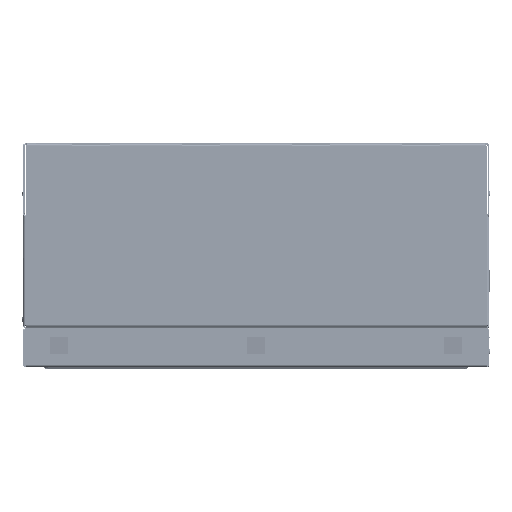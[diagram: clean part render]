
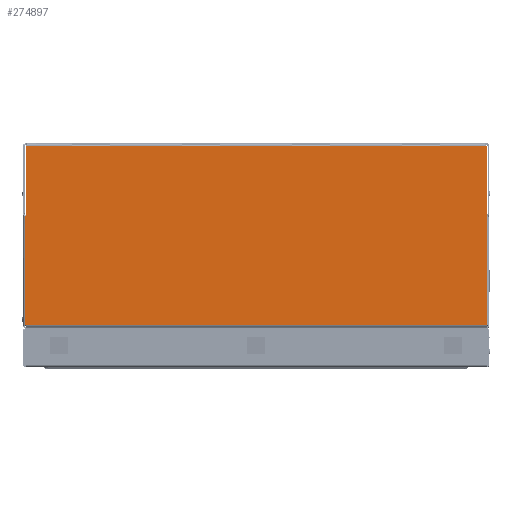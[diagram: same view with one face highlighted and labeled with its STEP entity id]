
A CAD part, top view. The second image highlights one B-rep face of the part: STEP entity #274897.
In plain terms, the highlighted planar face has unit normal (0, 0, 1).
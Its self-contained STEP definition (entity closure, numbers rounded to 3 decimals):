
#256444=DIRECTION('',(-1.,0.,0.));
#256445=VECTOR('',#256444,5.955);
#256446=CARTESIAN_POINT('',(-79.215,27.825,0.25));
#256447=LINE('',#256446,#256445);
#256448=CARTESIAN_POINT('',(-85.17,27.825,0.25));
#256762=DIRECTION('',(-1.,0.,0.));
#256763=VECTOR('',#256762,9.21);
#256764=CARTESIAN_POINT('',(-65.245,27.825,0.25));
#256765=LINE('',#256764,#256763);
#257070=DIRECTION('',(-1.,0.,0.));
#257071=VECTOR('',#257070,9.21);
#257072=CARTESIAN_POINT('',(-51.275,27.825,0.25));
#257073=LINE('',#257072,#257071);
#257378=DIRECTION('',(-1.,0.,0.));
#257379=VECTOR('',#257378,9.21);
#257380=CARTESIAN_POINT('',(-37.305,27.825,0.25));
#257381=LINE('',#257380,#257379);
#257682=DIRECTION('',(-1.,0.,0.));
#257683=VECTOR('',#257682,5.955);
#257684=CARTESIAN_POINT('',(-26.59,27.825,
0.25));
#257685=LINE('',#257684,#257683);
#257700=DIRECTION('',(-0.707,0.707,
0.));
#257701=VECTOR('',#257700,0.028);
#257702=CARTESIAN_POINT('',(-26.57,18.905,0.25));
#257703=LINE('',#257702,#257701);
#257704=DIRECTION('',(-0.707,-0.707,
0.));
#257705=VECTOR('',#257704,0.028);
#257706=CARTESIAN_POINT('',(-85.17,18.925,0.25));
#257707=LINE('',#257706,#257705);
#257712=DIRECTION('',(0.,-1.,0.));
#257713=VECTOR('',#257712,8.9);
#257714=CARTESIAN_POINT('',(-26.59,27.825,
0.25));
#257715=LINE('',#257714,#257713);
#262889=DIRECTION('',(-1.,0.,0.));
#262890=VECTOR('',#262889,4.76);
#262891=CARTESIAN_POINT('',(-32.545,27.825,0.25));
#262892=LINE('',#262891,#262890);
#262913=DIRECTION('',(-1.,0.,0.));
#262914=VECTOR('',#262913,4.76);
#262915=CARTESIAN_POINT('',(-46.515,27.825,0.25));
#262916=LINE('',#262915,#262914);
#262937=DIRECTION('',(-1.,0.,0.));
#262938=VECTOR('',#262937,4.76);
#262939=CARTESIAN_POINT('',(-60.485,27.825,0.25));
#262940=LINE('',#262939,#262938);
#262961=DIRECTION('',(-1.,0.,0.));
#262962=VECTOR('',#262961,4.76);
#262963=CARTESIAN_POINT('',(-74.455,27.825,0.25));
#262964=LINE('',#262963,#262962);
#263003=DIRECTION('',(0.,1.,0.));
#263004=VECTOR('',#263003,8.9);
#263005=CARTESIAN_POINT('',(-85.17,18.925,0.25));
#263006=LINE('',#263005,#263004);
#263034=DIRECTION('',(0.,-1.,0.));
#263035=VECTOR('',#263034,13.82);
#263036=CARTESIAN_POINT('',(-85.19,18.905,0.25));
#263037=LINE('',#263036,#263035);
#263060=DIRECTION('',(-1.,0.,0.));
#263061=VECTOR('',#263060,0.02);
#263062=CARTESIAN_POINT('',(-85.17,5.085,0.25));
#263063=LINE('',#263062,#263061);
#263082=DIRECTION('',(1.,0.,0.));
#263083=VECTOR('',#263082,58.58);
#263084=CARTESIAN_POINT('',(-85.17,5.085,0.25));
#263085=LINE('',#263084,#263083);
#263100=DIRECTION('',(-1.,0.,0.));
#263101=VECTOR('',#263100,0.02);
#263102=CARTESIAN_POINT('',(-26.57,5.085,0.25));
#263103=LINE('',#263102,#263101);
#263134=DIRECTION('',(0.,1.,0.));
#263135=VECTOR('',#263134,13.82);
#263136=CARTESIAN_POINT('',(-26.57,5.085,0.25));
#263137=LINE('',#263136,#263135);
#268076=VERTEX_POINT('',#256448);
#268079=CARTESIAN_POINT('',(-79.215,27.825,0.25));
#268080=VERTEX_POINT('',#268079);
#268099=CARTESIAN_POINT('',(-74.455,27.825,0.25));
#268100=VERTEX_POINT('',#268099);
#268103=CARTESIAN_POINT('',(-65.245,27.825,0.25));
#268104=VERTEX_POINT('',#268103);
#268123=CARTESIAN_POINT('',(-60.485,27.825,0.25));
#268124=VERTEX_POINT('',#268123);
#268127=CARTESIAN_POINT('',(-51.275,27.825,0.25));
#268128=VERTEX_POINT('',#268127);
#268147=CARTESIAN_POINT('',(-46.515,27.825,0.25));
#268148=VERTEX_POINT('',#268147);
#268151=CARTESIAN_POINT('',(-37.305,27.825,0.25));
#268152=VERTEX_POINT('',#268151);
#268171=CARTESIAN_POINT('',(-32.545,27.825,0.25));
#268172=VERTEX_POINT('',#268171);
#268175=CARTESIAN_POINT('',(-26.59,27.825,
0.25));
#268176=VERTEX_POINT('',#268175);
#268177=CARTESIAN_POINT('',(-26.57,18.905,0.25));
#268178=CARTESIAN_POINT('',(-26.59,18.925,0.25));
#268179=VERTEX_POINT('',#268177);
#268180=VERTEX_POINT('',#268178);
#268181=CARTESIAN_POINT('',(-26.57,5.085,0.25));
#268182=VERTEX_POINT('',#268181);
#268183=CARTESIAN_POINT('',(-26.59,5.085,0.25));
#268184=VERTEX_POINT('',#268183);
#268185=CARTESIAN_POINT('',(-85.17,5.085,0.25));
#268186=VERTEX_POINT('',#268185);
#268187=CARTESIAN_POINT('',(-85.19,5.085,0.25));
#268188=VERTEX_POINT('',#268187);
#268189=CARTESIAN_POINT('',(-85.19,18.905,0.25));
#268190=VERTEX_POINT('',#268189);
#268191=CARTESIAN_POINT('',(-85.17,18.925,0.25));
#268192=VERTEX_POINT('',#268191);
#274859=CARTESIAN_POINT('',(-55.88,16.455,0.25));
#274860=DIRECTION('',(0.,0.,1.));
#274861=DIRECTION('',(0.,1.,0.));
#274862=AXIS2_PLACEMENT_3D('',#274859,#274860,#274861);
#274863=PLANE('',#274862);
#274865=ORIENTED_EDGE('',*,*,#274864,.F.);
#274867=ORIENTED_EDGE('',*,*,#274866,.F.);
#274869=ORIENTED_EDGE('',*,*,#274868,.T.);
#274871=ORIENTED_EDGE('',*,*,#274870,.F.);
#274873=ORIENTED_EDGE('',*,*,#274872,.T.);
#274875=ORIENTED_EDGE('',*,*,#274874,.F.);
#274877=ORIENTED_EDGE('',*,*,#274876,.F.);
#274879=ORIENTED_EDGE('',*,*,#274878,.T.);
#274880=ORIENTED_EDGE('',*,*,#273025,.F.);
#274882=ORIENTED_EDGE('',*,*,#274881,.F.);
#274883=ORIENTED_EDGE('',*,*,#273482,.F.);
#274885=ORIENTED_EDGE('',*,*,#274884,.F.);
#274886=ORIENTED_EDGE('',*,*,#273939,.F.);
#274888=ORIENTED_EDGE('',*,*,#274887,.F.);
#274889=ORIENTED_EDGE('',*,*,#274396,.F.);
#274891=ORIENTED_EDGE('',*,*,#274890,.F.);
#274892=ORIENTED_EDGE('',*,*,#274850,.F.);
#274894=ORIENTED_EDGE('',*,*,#274893,.T.);
#274895=EDGE_LOOP('',(#274865,#274867,#274869,#274871,#274873,#274875,#274877,
#274879,#274880,#274882,#274883,#274885,#274886,#274888,#274889,#274891,#274892,
#274894));
#274896=FACE_OUTER_BOUND('',#274895,.F.);
#274897=ADVANCED_FACE('',(#274896),#274863,.T.);
#273025=EDGE_CURVE('',#268080,#268076,#256447,.T.);
#273482=EDGE_CURVE('',#268104,#268100,#256765,.T.);
#273939=EDGE_CURVE('',#268128,#268124,#257073,.T.);
#274396=EDGE_CURVE('',#268152,#268148,#257381,.T.);
#274850=EDGE_CURVE('',#268176,#268172,#257685,.T.);
#274864=EDGE_CURVE('',#268179,#268180,#257703,.T.);
#274866=EDGE_CURVE('',#268182,#268179,#263137,.T.);
#274868=EDGE_CURVE('',#268182,#268184,#263103,.T.);
#274870=EDGE_CURVE('',#268186,#268184,#263085,.T.);
#274872=EDGE_CURVE('',#268186,#268188,#263063,.T.);
#274874=EDGE_CURVE('',#268190,#268188,#263037,.T.);
#274876=EDGE_CURVE('',#268192,#268190,#257707,.T.);
#274878=EDGE_CURVE('',#268192,#268076,#263006,.T.);
#274881=EDGE_CURVE('',#268100,#268080,#262964,.T.);
#274884=EDGE_CURVE('',#268124,#268104,#262940,.T.);
#274887=EDGE_CURVE('',#268148,#268128,#262916,.T.);
#274890=EDGE_CURVE('',#268172,#268152,#262892,.T.);
#274893=EDGE_CURVE('',#268176,#268180,#257715,.T.);
